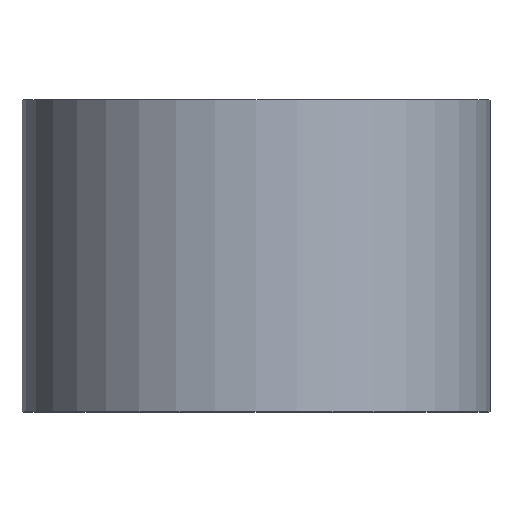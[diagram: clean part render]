
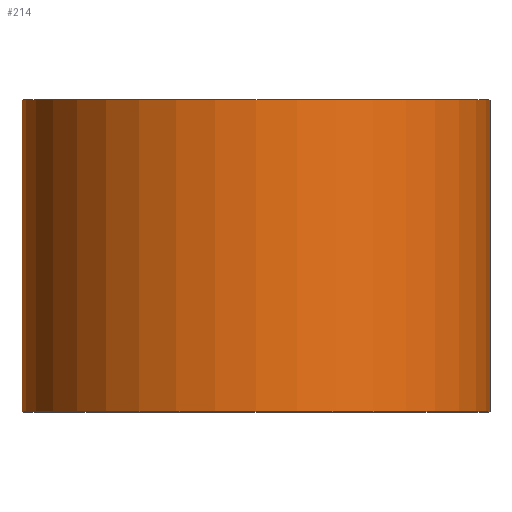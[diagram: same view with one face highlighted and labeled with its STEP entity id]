
A CAD part, top view. The second image highlights one B-rep face of the part: STEP entity #214.
In plain terms, the highlighted cylindrical face has radius 9 mm (diameter 18 mm), a partial arc.
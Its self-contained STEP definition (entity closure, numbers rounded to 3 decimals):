
#5 = DIRECTION ( 'NONE',  ( 0., 1., 0. ) ) ;
#27 = CARTESIAN_POINT ( 'NONE',  ( 0., 0., 0. ) ) ;
#29 = CARTESIAN_POINT ( 'NONE',  ( 9., 0., 0. ) ) ;
#40 = DIRECTION ( 'NONE',  ( 0., 1., 0. ) ) ;
#46 = DIRECTION ( 'NONE',  ( -1., 0., 0. ) ) ;
#49 = DIRECTION ( 'NONE',  ( -1., 0., 0. ) ) ;
#61 = EDGE_LOOP ( 'NONE', ( #298, #216, #224, #106 ) ) ;
#64 = CARTESIAN_POINT ( 'NONE',  ( 9., 0., 0. ) ) ;
#72 = VECTOR ( 'NONE', #231, 1000. ) ;
#88 = CARTESIAN_POINT ( 'NONE',  ( -9., 0., 0. ) ) ;
#93 = VERTEX_POINT ( 'NONE', #64 ) ;
#99 = EDGE_CURVE ( 'NONE', #135, #145, #226, .T. ) ;
#101 = CARTESIAN_POINT ( 'NONE',  ( -9., 12., 0. ) ) ;
#105 = AXIS2_PLACEMENT_3D ( 'NONE', #177, #40, #46 ) ;
#106 = ORIENTED_EDGE ( 'NONE', *, *, #273, .F. ) ;
#114 = CIRCLE ( 'NONE', #136, 9. ) ;
#122 = DIRECTION ( 'NONE',  ( -1., 0., 0. ) ) ;
#135 = VERTEX_POINT ( 'NONE', #101 ) ;
#136 = AXIS2_PLACEMENT_3D ( 'NONE', #207, #152, #122 ) ;
#145 = VERTEX_POINT ( 'NONE', #252 ) ;
#146 = EDGE_CURVE ( 'NONE', #175, #93, #114, .T. ) ;
#152 = DIRECTION ( 'NONE',  ( 0., 1., 0. ) ) ;
#155 = CARTESIAN_POINT ( 'NONE',  ( -9., 0., 0. ) ) ;
#175 = VERTEX_POINT ( 'NONE', #88 ) ;
#177 = CARTESIAN_POINT ( 'NONE',  ( 0., 12., 0. ) ) ;
#207 = CARTESIAN_POINT ( 'NONE',  ( 0., 0., 0. ) ) ;
#213 = DIRECTION ( 'NONE',  ( 0., 1., 0. ) ) ;
#214 = ADVANCED_FACE ( 'NONE', ( #253 ), #278, .T. ) ;
#216 = ORIENTED_EDGE ( 'NONE', *, *, #295, .T. ) ;
#224 = ORIENTED_EDGE ( 'NONE', *, *, #99, .F. ) ;
#225 = LINE ( 'NONE', #29, #236 ) ;
#226 = CIRCLE ( 'NONE', #105, 9. ) ;
#231 = DIRECTION ( 'NONE',  ( 0., 1., 0. ) ) ;
#236 = VECTOR ( 'NONE', #213, 1000. ) ;
#252 = CARTESIAN_POINT ( 'NONE',  ( 9., 12., 0. ) ) ;
#253 = FACE_OUTER_BOUND ( 'NONE', #61, .T. ) ;
#254 = AXIS2_PLACEMENT_3D ( 'NONE', #27, #5, #49 ) ;
#270 = LINE ( 'NONE', #155, #72 ) ;
#273 = EDGE_CURVE ( 'NONE', #175, #135, #270, .T. ) ;
#278 = CYLINDRICAL_SURFACE ( 'NONE', #254, 9. ) ;
#295 = EDGE_CURVE ( 'NONE', #93, #145, #225, .T. ) ;
#298 = ORIENTED_EDGE ( 'NONE', *, *, #146, .T. ) ;
